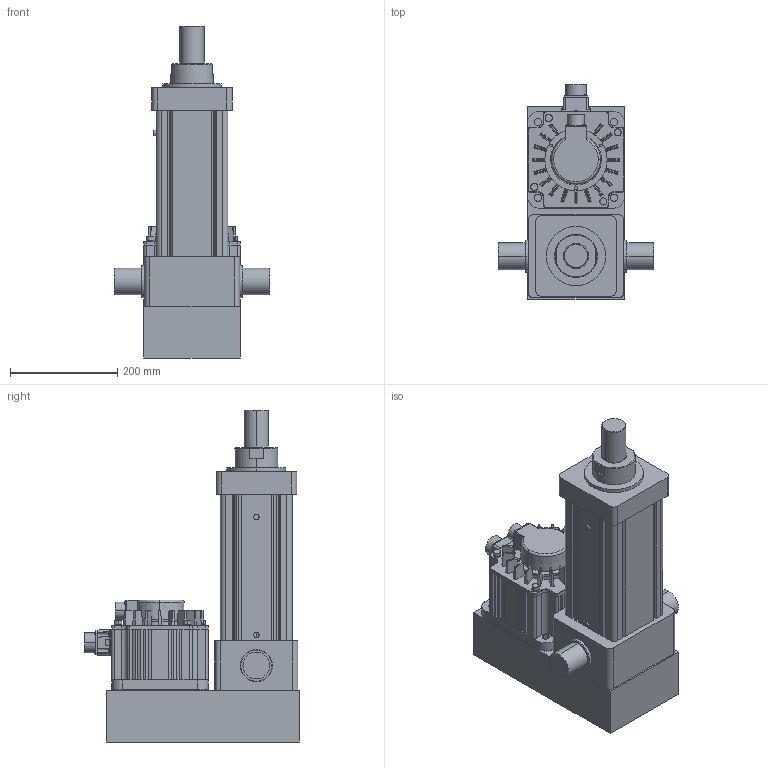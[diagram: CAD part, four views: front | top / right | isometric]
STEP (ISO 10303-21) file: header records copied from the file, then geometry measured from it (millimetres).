
FILE_DESCRIPTION (( 'STEP AP203' ), '1' );
FILE_NAME ('S5殏殿嫉粣假蚾.STEP', '2024-08-14T08:25:15', ( '' ), ( '' ), 'SwSTEP 2.0', 'SolidWorks 2018', '' );
FILE_SCHEMA (( 'CONFIG_CONTROL_DESIGN' ));
Length unit declared in the file: millimetre
Products named in the file (3): ECMA-EX1820RS-180框號系列機種-2KW中慣量系列; S5殏殿嫉粣; S5殏殿嫉粣假蚾
Assembly tree (2 placements, depth 2):
  S5殏殿嫉粣假蚾
    S5殏殿嫉粣
    ECMA-EX1820RS-180框號系列機種-2KW中慣量系列
Bounding box: 290 x 400.02 x 619 mm (x, y, z)
Volume: 15319166.1 mm3; surface area: 1048504.8 mm2
Topology: 3 solids, 15 shells, 925 faces, 2197 edges, 1385 vertices
Faces by surface type: plane 490, cylinder 326, cone 66, bspline 27, torus 16
Entity records: 28867 total; most frequent: CARTESIAN_POINT 7150, DIRECTION 4466, ORIENTED_EDGE 4390, EDGE_CURVE 2195, AXIS2_PLACEMENT_3D 1561, VERTEX_POINT 1385, LINE 1344, VECTOR 1344
